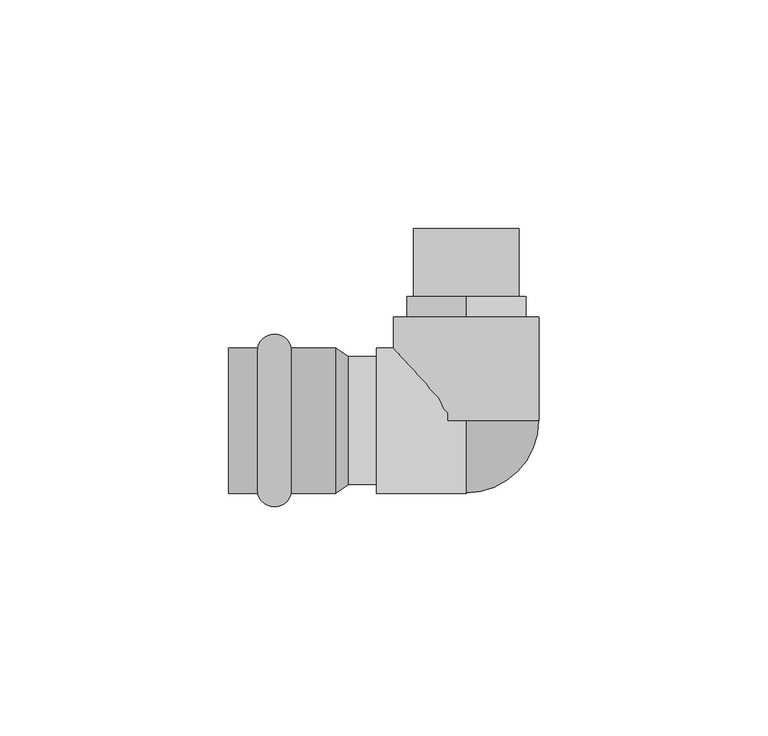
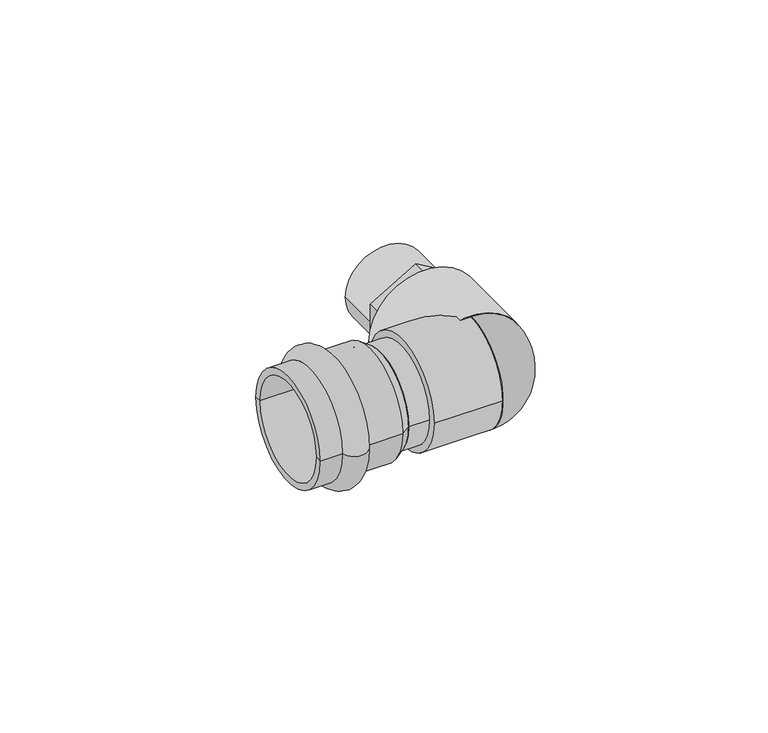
"""IFC4 building model written with IfcOpenShell, lengths in millimetres: pipe fitting geometry, VALTEC_VTi.953.I_Угольник с переходом на наружную резьбу нержавеющая сталь : VTi.953.I."""

from ifc_helpers import new_model, si_unit, point, frame, origin, origin_2d, place, context, project, spatial, polyline, circle_curve, ellipse_curve, trimmed, segment, composite_curve, outline, extrude, source, transform, mapped, element, save
from ifc_brep_helpers import plane_surface, cylinder_surface, revolved_surface, advanced_brep


def pipe_fitting_63f6a560(model_context):
    return source(origin(), model_context, "Body", "SolidModel", [
        advanced_brep(
        [(-45.6242346, -15.9, 0.0), (-45.6242346, 15.9, 0.0), (-38.2757654, 15.9, 0.0), (-38.2757654, -15.9, 0.0), (-52.0, -15.9, 0.0), (-52.0, 15.9, 0.0), (-52.0, -14.0, 0.0), (-52.0, 14.0, 0.0), (-28.6, -14.0, 0.0), (-28.6, 14.0, 0.0), (-28.6, -15.9, 0.0), (-28.6, 15.9, 0.0)],
        [
            (0, 1, circle_curve(frame((-45.6242346, 0.0, 0.0), z_axis=(1.0, 0.0, 0.0), x_axis=(0.0, 1.0, 0.0)), 15.9)),
            (1, 2, circle_curve(frame((-41.95, 15.15, 0.0), z_axis=(0.0, 0.0, -1.0), x_axis=(1.0, 0.0, 0.0)), 3.75)),
            (2, 3, circle_curve(frame((-38.2757654, 0.0, 0.0), z_axis=(-1.0, 0.0, 0.0), x_axis=(0.0, 1.0, 0.0)), 15.9)),
            (3, 0, circle_curve(frame((-41.95, -15.15, 0.0), z_axis=(0.0, 0.0, -1.0), x_axis=(1.0, 0.0, 0.0)), 3.75)),
            (1, 0, circle_curve(frame((-45.6242346, 0.0, 0.0), z_axis=(1.0, 0.0, 0.0), x_axis=(0.0, 1.0, 0.0)), 15.9)),
            (3, 2, circle_curve(frame((-38.2757654, 0.0, 0.0), z_axis=(-1.0, 0.0, 0.0), x_axis=(0.0, 1.0, 0.0)), 15.9)),
            (4, 5, circle_curve(frame((-52.0, 0.0, 0.0), z_axis=(1.0, 0.0, 0.0), x_axis=(0.0, 1.0, 0.0)), 15.9)),
            (5, 1),
            (0, 4),
            (5, 4, circle_curve(frame((-52.0, 0.0, 0.0), z_axis=(1.0, 0.0, 0.0), x_axis=(0.0, 1.0, 0.0)), 15.9)),
            (6, 7, circle_curve(frame((-52.0, 0.0, 0.0), z_axis=(1.0, 0.0, 0.0), x_axis=(0.0, 1.0, 0.0)), 14.0)),
            (7, 5),
            (4, 6),
            (7, 6, circle_curve(frame((-52.0, 0.0, 0.0), z_axis=(1.0, 0.0, 0.0), x_axis=(0.0, 1.0, 0.0)), 14.0)),
            (8, 9, circle_curve(frame((-28.6, 0.0, 0.0), z_axis=(1.0, 0.0, 0.0), x_axis=(0.0, 1.0, 0.0)), 14.0)),
            (9, 7),
            (6, 8),
            (9, 8, circle_curve(frame((-28.6, 0.0, 0.0), z_axis=(1.0, 0.0, 0.0), x_axis=(0.0, 1.0, 0.0)), 14.0)),
            (10, 11, circle_curve(frame((-28.6, 0.0, 0.0), z_axis=(1.0, 0.0, 0.0), x_axis=(0.0, 1.0, 0.0)), 15.9)),
            (11, 9),
            (8, 10),
            (11, 10, circle_curve(frame((-28.6, 0.0, 0.0), z_axis=(1.0, 0.0, 0.0), x_axis=(0.0, 1.0, 0.0)), 15.9)),
            (2, 11),
            (10, 3),
        ],
        [
            revolved_surface(trimmed(ellipse_curve(frame((-41.95, 15.15, 0.0), z_axis=(0.0, 0.0, 1.0), x_axis=(1.0, 0.0, 0.0)), 3.75, 3.75), [point((-38.2757654, 15.9, 0.0))], [point((-45.6242346, 15.9, 0.0))], True, "CARTESIAN"), (-55.5364426, 0.0, 0.0), (-1.0, 0.0, 0.0)),
            cylinder_surface(frame((-55.5364426, 0.0, 0.0), z_axis=(-1.0, 0.0, 0.0), x_axis=(0.0, 1.0, 0.0)), 15.9),
            plane_surface(frame((-52.0, 0.0, 0.0), z_axis=(-1.0, 0.0, 0.0), x_axis=(0.0, 1.0, 0.0))),
            revolved_surface(polyline([(-52.0, 14.0, 0.0), (-28.6, 14.0, 0.0)]), (-55.5364426, 0.0, 0.0), (-1.0, 0.0, 0.0)),
            plane_surface(frame((-28.6, 0.0, 0.0), z_axis=(1.0, 0.0, 0.0), x_axis=(0.0, 1.0, 0.0))),
        ],
        [
            (0, [[1, 2, 3, 4]]),
            (0, [[5, -4, 6, -2]]),
            (1, [[7, 8, -1, 9]]),
            (1, [[10, -9, -5, -8]]),
            (2, [[11, 12, -7, 13]]),
            (2, [[14, -13, -10, -12]]),
            (3, [[15, 16, -11, 17]]),
            (3, [[18, -17, -14, -16]]),
            (4, [[19, 20, -15, 21]]),
            (4, [[22, -21, -18, -20]]),
            (1, [[-3, 23, -19, 24]]),
            (1, [[-6, -24, -22, -23]]),
        ],
    ),
        extrude(outline(composite_curve([segment(trimmed(circle_curve(origin_2d(), 11.5), [point((0.0, -11.5))], [point((0.0, 11.5))], False, "CARTESIAN"), True, "CONTINUOUS"), segment(trimmed(circle_curve(origin_2d(), 11.5), [point((0.0, 11.5))], [point((0.0, -11.5))], False, "CARTESIAN"), True, "CONTINUOUS")], self_intersect=False), holes=[composite_curve([segment(trimmed(circle_curve(origin_2d(), 10.0), [point((0.0, -10.0))], [point((0.0, 10.0))], True, "CARTESIAN"), True, "CONTINUOUS"), segment(trimmed(circle_curve(origin_2d(), 10.0), [point((0.0, 10.0))], [point((0.0, -10.0))], True, "CARTESIAN"), True, "CONTINUOUS")], self_intersect=False)]), frame((0.0, 27.1428571, 0.0), z_axis=(0.0, 1.0, 0.0), x_axis=(0.0, 0.0, 1.0)), (0.0, 0.0, 1.0), 14.8571429),
        extrude(outline(polyline([(15.011107, 0.0), (7.5055535, -13.0), (-7.5055535, -13.0), (-15.011107, 0.0), (-7.5055535, 13.0), (7.5055535, 13.0), (15.011107, 0.0)]), holes=[composite_curve([segment(trimmed(circle_curve(origin_2d(), 10.0), [point((0.0, -10.0))], [point((0.0, 10.0))], True, "CARTESIAN"), True, "CONTINUOUS"), segment(trimmed(circle_curve(origin_2d(), 10.0), [point((0.0, 10.0))], [point((0.0, -10.0))], True, "CARTESIAN"), True, "CONTINUOUS")], self_intersect=False)]), frame((0.0, 22.6857143, 0.0), z_axis=(0.0, 1.0, 0.0), x_axis=(0.0, 0.0, 1.0)), (0.0, 0.0, 1.0), 4.4571429),
        extrude(outline(composite_curve([segment(trimmed(circle_curve(origin_2d(), 15.9), [point((0.0, -15.9))], [point((0.0, 15.9))], False, "CARTESIAN"), True, "CONTINUOUS"), segment(trimmed(circle_curve(origin_2d(), 15.9), [point((0.0, 15.9))], [point((0.0, -15.9))], False, "CARTESIAN"), True, "CONTINUOUS")], self_intersect=False)), frame((0.0, 0.0, 0.0), z_axis=(0.0, 1.0, 0.0), x_axis=(0.0, 0.0, 1.0)), (0.0, 0.0, 1.0), 22.6857143),
        advanced_brep(
        [(0.0, 0.0, -15.9), (0.0, 0.0, 15.9)],
        [
            (0, 1, circle_curve(frame((0.0, 0.0, 0.0), z_axis=(-1.0, 0.0, 0.0), x_axis=(0.0, -1.0, 0.0)), 15.9)),
            (1, 0),
            (1, 0, circle_curve(frame((0.0, 0.0, 0.0), z_axis=(0.0, 1.0, 0.0), x_axis=(1.0, 0.0, 0.0)), 15.9)),
        ],
        [
            plane_surface(frame((0.0, 0.0, 22.9086047), z_axis=(-1.0, 0.0, 0.0), x_axis=(0.0, -1.0, 0.0))),
            plane_surface(frame((0.0, 0.0, 22.9086047), z_axis=(0.0, 1.0, 0.0), x_axis=(1.0, 0.0, 0.0))),
            revolved_surface(trimmed(ellipse_curve(frame((0.0, 0.0, 0.0), z_axis=(-1.0, 0.0, 0.0), x_axis=(0.0, -1.0, 0.0)), 15.9, 15.9), [point((0.0, 0.0, -15.9))], [point((0.0, 0.0, 15.9))], True, "CARTESIAN"), (0.0, 0.0, 22.9086047), (0.0, 0.0, 1.0)),
        ],
        [
            (0, [[1, 2]]),
            (1, [[3, -2]]),
            (2, [[-1, -3]]),
        ],
    ),
        extrude(outline(composite_curve([segment(trimmed(circle_curve(origin_2d(), 15.9), [point((-15.9, 0.0))], [point((15.9, 0.0))], False, "CARTESIAN"), True, "CONTINUOUS"), segment(trimmed(circle_curve(origin_2d(), 15.9), [point((15.9, 0.0))], [point((-15.9, 0.0))], False, "CARTESIAN"), True, "CONTINUOUS")], self_intersect=False)), frame((-19.6390217, 0.0, 0.0), z_axis=(1.0, 0.0, 0.0), x_axis=(0.0, 1.0, 0.0)), (0.0, 0.0, 1.0), 19.6390217),
        extrude(outline(composite_curve([segment(trimmed(circle_curve(origin_2d(), 14.0), [point((-14.0, 0.0))], [point((14.0, 0.0))], False, "CARTESIAN"), True, "CONTINUOUS"), segment(trimmed(circle_curve(origin_2d(), 14.0), [point((14.0, 0.0))], [point((-14.0, 0.0))], False, "CARTESIAN"), True, "CONTINUOUS")], self_intersect=False)), frame((-25.74, 0.0, 0.0), z_axis=(1.0, 0.0, 0.0), x_axis=(0.0, 1.0, 0.0)), (0.0, 0.0, 1.0), 6.1009783),
        advanced_brep(
        [(-28.6, -15.9, 0.0), (-28.6, 15.9, 0.0), (-25.74, -14.0, 0.0), (-25.74, 14.0, 0.0)],
        [
            (0, 1, circle_curve(frame((-28.6, 0.0, 0.0), z_axis=(-1.0, 0.0, 0.0), x_axis=(0.0, -1.0, 0.0)), 15.9)),
            (1, 0, circle_curve(frame((-28.6, 0.0, 0.0), z_axis=(-1.0, 0.0, 0.0), x_axis=(0.0, 1.0, 0.0)), 15.9)),
            (2, 3, circle_curve(frame((-25.74, 0.0, 0.0), z_axis=(1.0, 0.0, 0.0), x_axis=(0.0, 1.0, 0.0)), 14.0)),
            (3, 2, circle_curve(frame((-25.74, 0.0, 0.0), z_axis=(1.0, 0.0, 0.0), x_axis=(0.0, -1.0, 0.0)), 14.0)),
            (2, 0),
            (1, 3),
        ],
        [
            plane_surface(frame((-28.6, 0.0, 0.0), z_axis=(-1.0, 0.0, 0.0), x_axis=(0.0, 0.0, -1.0))),
            plane_surface(frame((-25.74, 0.0, 0.0), z_axis=(1.0, 0.0, 0.0), x_axis=(0.0, 0.0, -1.0))),
            revolved_surface(polyline([(-25.74, -13.999999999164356, 0.0), (-28.6, -15.9, 0.0)]), (-4.6663158, 0.0, 0.0), (-1.0, 0.0, 0.0)),
            revolved_surface(polyline([(-25.74, 13.999999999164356, 0.0), (-28.6, 15.9, 0.0)]), (-4.6663158, 0.0, 0.0), (-1.0, 0.0, 0.0)),
        ],
        [
            (0, [[1, 2]]),
            (1, [[3, 4]]),
            (2, [[-3, 5, -2, 6]]),
            (3, [[-4, -6, -1, -5]]),
        ],
    ),
    ])


if __name__ == "__main__":
    model = new_model("IFC4")
    model_context = context("Model", 3, world=origin())
    ifc_project = project(units=[si_unit("LENGTHUNIT", "METRE", prefix="MILLI")], contexts=[model_context])
    site = spatial("IfcSite", under=ifc_project)
    building = spatial("IfcBuilding", under=site)
    placement = place(None, origin())
    pipe_fitting_shape = pipe_fitting_63f6a560(model_context)
    element("IfcPipeFitting", 1, ObjectType="VALTEC_VTi.953.I_Угольник с переходом на наружную резьбу нержавеющая сталь : VTi.953.I", at=placement, inside=building, context=model_context, shape_type="MappedRepresentation", body=[
        mapped(pipe_fitting_shape, transform((0.0, 0.0, 0.0), x_axis=(1.0, 0.0, 0.0), y_axis=(0.0, 1.0, 0.0), z_axis=(0.0, 0.0, 1.0))),
    ])
    save(model, "model.ifc")
